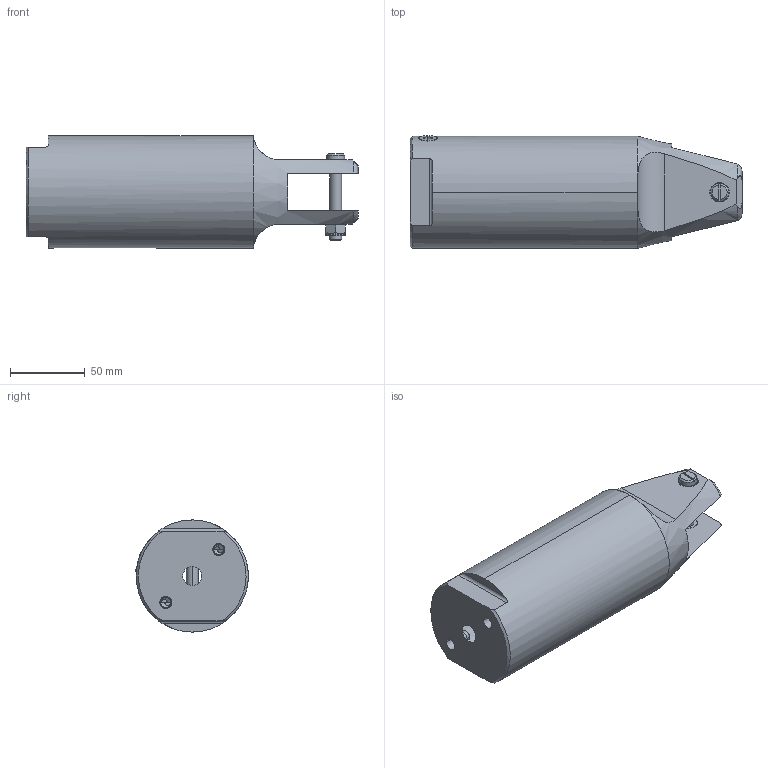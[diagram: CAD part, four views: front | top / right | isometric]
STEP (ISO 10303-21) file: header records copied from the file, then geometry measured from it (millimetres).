
FILE_DESCRIPTION (( 'STEP AP214' ), '1' );
FILE_NAME ('GT-NR50.STEP', '2019-11-28T01:03:31', ( '微软用户' ), ( '微软中国' ), 'SwSTEP 2.0', 'SolidWorks 2016', '' );
FILE_SCHEMA (( 'AUTOMOTIVE_DESIGN' ));
Length unit declared in the file: millimetre
Products named in the file (1): GT-NR50
Bounding box: 222 x 75.38 x 75 mm (x, y, z)
Surface area: 65119.2 mm2 (no closed solid volume)
Topology: 0 solids, 7 shells, 189 faces, 500 edges, 313 vertices
Faces by surface type: plane 80, cylinder 54, cone 49, bspline 4, torus 2
Entity records: 8237 total; most frequent: CARTESIAN_POINT 3750, ORIENTED_EDGE 933, DIRECTION 888, EDGE_CURVE 495, AXIS2_PLACEMENT_3D 361, VERTEX_POINT 313, EDGE_LOOP 207, ADVANCED_FACE 189
